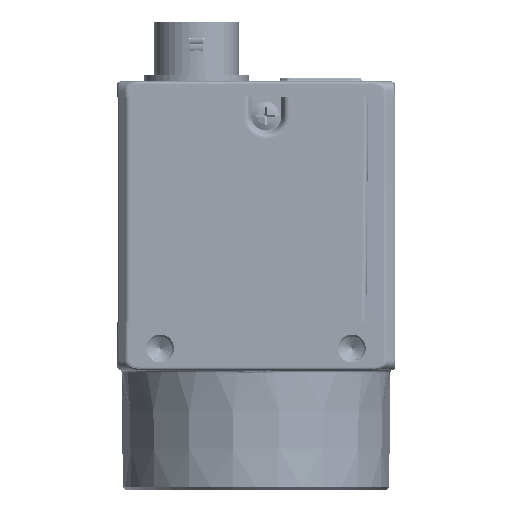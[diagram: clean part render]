
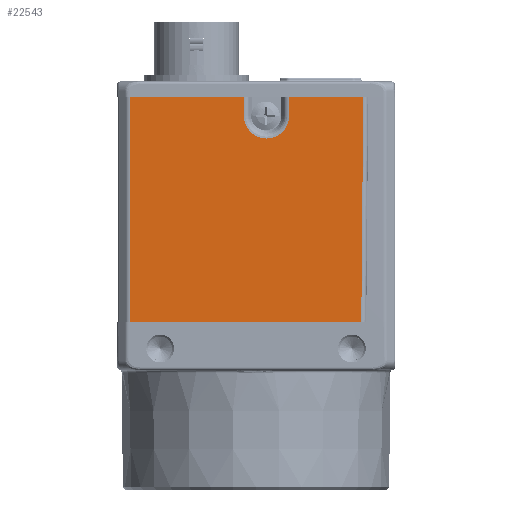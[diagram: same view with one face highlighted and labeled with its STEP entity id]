
A CAD part, left-side view. The second image highlights one B-rep face of the part: STEP entity #22543.
In plain terms, the highlighted planar face has unit normal (-1, 0, 0).
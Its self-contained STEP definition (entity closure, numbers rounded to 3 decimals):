
#20415=DIRECTION('',(0.,0.,-1.));
#20416=VECTOR('',#20415,23.5);
#20417=CARTESIAN_POINT('',(-14.5,13.193,23.));
#20418=LINE('',#20417,#20416);
#20423=DIRECTION('',(0.,-0.009,1.));
#20424=VECTOR('',#20423,23.501);
#20425=CARTESIAN_POINT('',(-14.5,-10.98,-0.5));
#20426=LINE('',#20425,#20424);
#20427=CARTESIAN_POINT('',(-14.5,-1.1,21.));
#20428=DIRECTION('',(1.,0.,0.));
#20429=DIRECTION('',(0.,-1.,0.));
#20430=AXIS2_PLACEMENT_3D('',#20427,#20428,#20429);
#20600=DIRECTION('',(0.,1.,0.));
#20601=VECTOR('',#20600,7.727);
#20602=CARTESIAN_POINT('',(-14.5,-11.185,23.));
#20603=LINE('',#20602,#20601);
#20622=DIRECTION('',(0.,0.,-1.));
#20623=VECTOR('',#20622,2.);
#20624=CARTESIAN_POINT('',(-14.5,-3.458,23.));
#20625=LINE('',#20624,#20623);
#20645=DIRECTION('',(0.,0.,1.));
#20646=VECTOR('',#20645,2.);
#20647=CARTESIAN_POINT('',(-14.5,1.258,21.));
#20648=LINE('',#20647,#20646);
#20671=DIRECTION('',(0.,1.,0.));
#20672=VECTOR('',#20671,11.935);
#20673=CARTESIAN_POINT('',(-14.5,1.258,23.));
#20674=LINE('',#20673,#20672);
#21067=DIRECTION('',(0.,1.,0.));
#21068=VECTOR('',#21067,24.173);
#21069=CARTESIAN_POINT('',(-14.5,-10.98,-0.5));
#21070=LINE('',#21069,#21068);
#21631=CARTESIAN_POINT('',(-14.5,13.193,-0.5));
#21632=VERTEX_POINT('',#21631);
#21633=CARTESIAN_POINT('',(-14.5,13.193,23.));
#21634=VERTEX_POINT('',#21633);
#21635=CARTESIAN_POINT('',(-14.5,-10.98,-0.5));
#21636=CARTESIAN_POINT('',(-14.5,-11.185,23.));
#21637=VERTEX_POINT('',#21635);
#21638=VERTEX_POINT('',#21636);
#21639=CARTESIAN_POINT('',(-14.5,1.258,23.));
#21640=VERTEX_POINT('',#21639);
#21641=CARTESIAN_POINT('',(-14.5,1.258,21.));
#21642=VERTEX_POINT('',#21641);
#21643=CARTESIAN_POINT('',(-14.5,-3.458,21.));
#21644=VERTEX_POINT('',#21643);
#21645=CARTESIAN_POINT('',(-14.5,-3.458,23.));
#21646=VERTEX_POINT('',#21645);
#22521=CARTESIAN_POINT('',(-14.5,1.004,11.25));
#22522=DIRECTION('',(1.,0.,0.));
#22523=DIRECTION('',(0.,-1.,0.));
#22524=AXIS2_PLACEMENT_3D('',#22521,#22522,#22523);
#22525=PLANE('',#22524);
#22527=ORIENTED_EDGE('',*,*,#22526,.F.);
#22529=ORIENTED_EDGE('',*,*,#22528,.T.);
#22530=ORIENTED_EDGE('',*,*,#22512,.F.);
#22532=ORIENTED_EDGE('',*,*,#22531,.F.);
#22534=ORIENTED_EDGE('',*,*,#22533,.F.);
#22536=ORIENTED_EDGE('',*,*,#22535,.F.);
#22538=ORIENTED_EDGE('',*,*,#22537,.F.);
#22540=ORIENTED_EDGE('',*,*,#22539,.F.);
#22541=EDGE_LOOP('',(#22527,#22529,#22530,#22532,#22534,#22536,#22538,#22540));
#22542=FACE_OUTER_BOUND('',#22541,.F.);
#22543=ADVANCED_FACE('',(#22542),#22525,.F.);
#20431=CIRCLE('',#20430,2.358);
#22512=EDGE_CURVE('',#21634,#21632,#20418,.T.);
#22526=EDGE_CURVE('',#21637,#21638,#20426,.T.);
#22528=EDGE_CURVE('',#21637,#21632,#21070,.T.);
#22531=EDGE_CURVE('',#21640,#21634,#20674,.T.);
#22533=EDGE_CURVE('',#21642,#21640,#20648,.T.);
#22535=EDGE_CURVE('',#21644,#21642,#20431,.T.);
#22537=EDGE_CURVE('',#21646,#21644,#20625,.T.);
#22539=EDGE_CURVE('',#21638,#21646,#20603,.T.);
